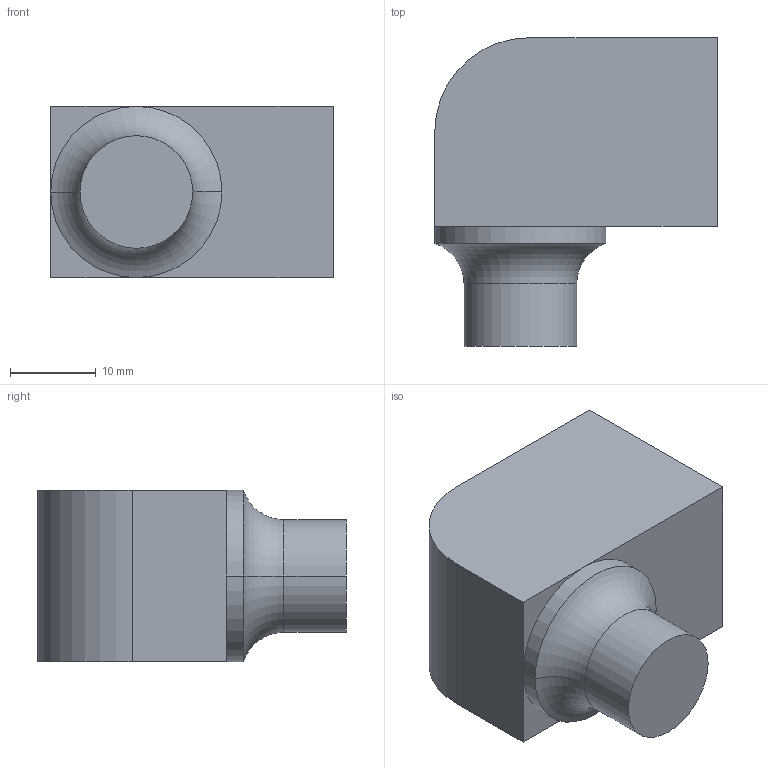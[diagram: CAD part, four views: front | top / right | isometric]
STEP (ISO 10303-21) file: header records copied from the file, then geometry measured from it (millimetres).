
FILE_DESCRIPTION (( 'STEP AP214' ), '1' );
FILE_NAME ('BR84-08.1151-90.STEP', '2020-06-23T08:40:59', ( '' ), ( '' ), 'SwSTEP 2.0', 'SolidWorks 2018', '' );
FILE_SCHEMA (( 'AUTOMOTIVE_DESIGN' ));
Length unit declared in the file: millimetre
Products named in the file (1): BR84-08.1151-90
Bounding box: 33 x 36 x 20 mm (x, y, z)
Volume: 16465.6 mm3; surface area: 4058.5 mm2
Topology: 1 solids, 1 shells, 16 faces, 34 edges, 20 vertices
Faces by surface type: plane 9, cylinder 5, torus 2
Entity records: 462 total; most frequent: DIRECTION 82, CARTESIAN_POINT 71, ORIENTED_EDGE 68, EDGE_CURVE 34, AXIS2_PLACEMENT_3D 31, LINE 20, VECTOR 20, VERTEX_POINT 20
